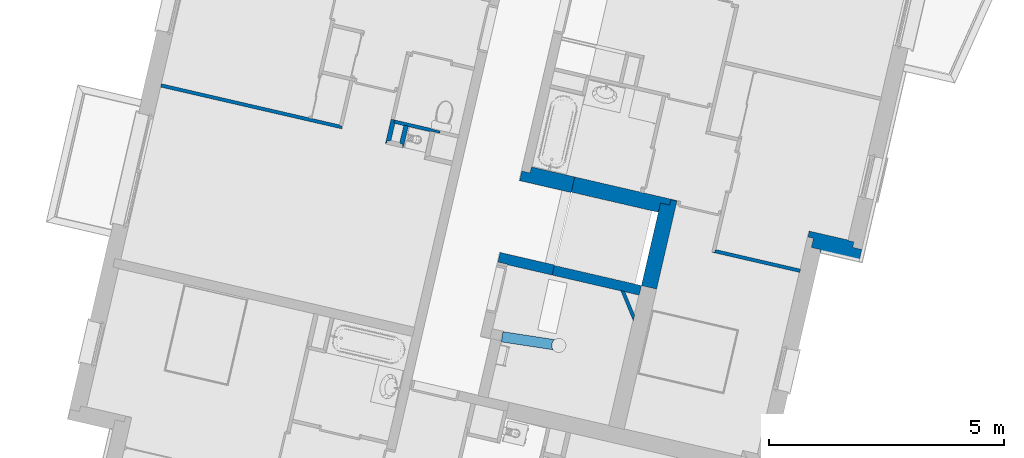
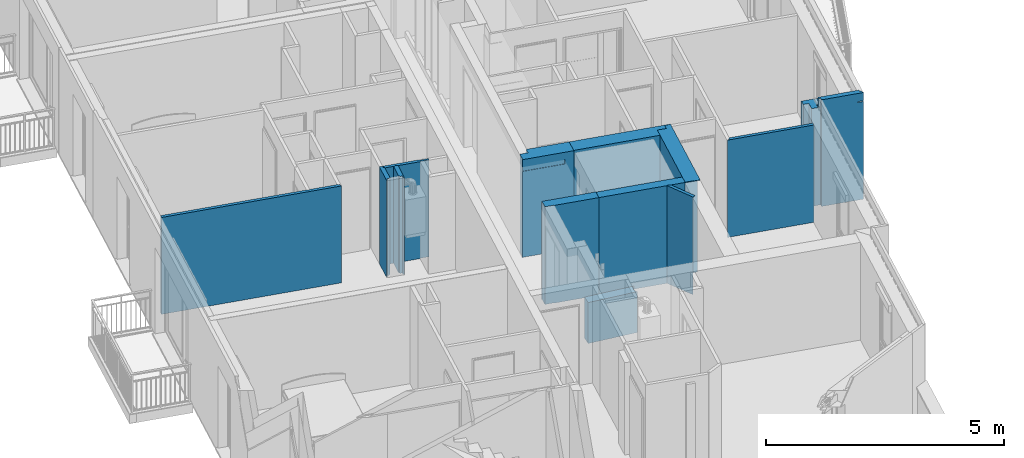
# One storey, part 26 of 62: 13 walls.
"""IFC2X3 building model written with IfcOpenShell, lengths in metres."""

from ifc_helpers import new_model, entity, si_unit, converted_unit, derived_unit, money_unit, direction, frame, origin_with_axes, place, context, subcontext, project, spatial, open_shell, faceted_brep, surface_model, material, material_list, type_object, element, save


model = new_model("IFC2X3")

# Units and contexts
model_context = context("Model", 3, precision=1e-05, world=origin_with_axes(), true_north=direction((0.0, 1.0)))
body_context = subcontext(model_context, "Body", "Model", "MODEL_VIEW")
ifc_project = project(units=[si_unit("LENGTHUNIT", "METRE"), si_unit("AREAUNIT", "SQUARE_METRE"), si_unit("VOLUMEUNIT", "CUBIC_METRE"), converted_unit("PLANEANGLEUNIT", "DEGREE", entity("IfcPlaneAngleMeasure", 0.0174532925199), si_unit("PLANEANGLEUNIT", "RADIAN"), dimensions=[0, 0, 0, 0, 0, 0, 0]), si_unit("SOLIDANGLEUNIT", "STERADIAN"), money_unit("EUR"), converted_unit("TIMEUNIT", "Year", entity("IfcTimeMeasure", 31556926.0), si_unit("TIMEUNIT", "SECOND"), dimensions=[0, 0, 1, 0, 0, 0, 0]), si_unit("MASSUNIT", "GRAM", prefix="KILO"), si_unit("THERMODYNAMICTEMPERATUREUNIT", "DEGREE_CELSIUS"), si_unit("LUMINOUSINTENSITYUNIT", "LUMEN"), si_unit("ENERGYUNIT", "JOULE", prefix="MEGA"), derived_unit("THERMALCONDUCTANCEUNIT", [(si_unit("POWERUNIT", "WATT"), 1), (si_unit("LENGTHUNIT", "METRE"), -1), (si_unit("THERMODYNAMICTEMPERATUREUNIT", "KELVIN"), -1)]), derived_unit("SPECIFICHEATCAPACITYUNIT", [(si_unit("ENERGYUNIT", "JOULE"), 1), (si_unit("MASSUNIT", "GRAM", prefix="KILO"), -1), (si_unit("THERMODYNAMICTEMPERATUREUNIT", "KELVIN"), -1)]), derived_unit("MASSDENSITYUNIT", [(si_unit("MASSUNIT", "GRAM", prefix="KILO"), 1), (si_unit("VOLUMEUNIT", "CUBIC_METRE"), -1)])], contexts=[model_context])

# Site, building, storey
site_placement = place(None, origin_with_axes())
site = spatial("IfcSite", under=ifc_project, at=site_placement, Name="Site", CompositionType="ELEMENT")
building_placement = place(site_placement, origin_with_axes())
building = spatial("IfcBuilding", under=site, at=building_placement, Name="Bâtiment", CompositionType="ELEMENT")
storey_placement = place(building_placement, frame((0.0, 0.0, 8.16), z_axis=(0.0, 0.0, 1.0), x_axis=(1.0, 0.0, 0.0)))
storey = spatial("IfcBuildingStorey", under=building, at=storey_placement, Name="R+3", CompositionType="ELEMENT", Elevation=8.16)

# Walls
ifc_material_1 = material(Name="Cloison - Carreaux de plâtre")
wall_type_1 = type_object("IfcWallType", Name="Cloison - Carreaux de plâtre 74", PredefinedType="USERDEFINED")
wall_1_placement = place(storey_placement, frame((-8.31029544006, -6.29006190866, 0.0), z_axis=(0.0, 0.0, 1.0), x_axis=(0.383112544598, -0.92370167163, 0.0)))
element("IfcWall", 1, at=wall_1_placement, inside=storey, type_object=wall_type_1, material=ifc_material_1, Name="Carreaux de plâtre 8cm", ObjectType="PARTITIONING", context=body_context, shape_type="Brep", body=[
    faceted_brep([(0.947949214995, 0.074, 2.51), (0.947949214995, 0.0, 2.51), (0.947949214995, 0.0, 2.5), (0.947949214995, 0.074, 2.5), (0.298560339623, 0.074, 2.51), (0.245733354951, 0.0, 2.51), (0.245733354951, 0.0, 0.0), (0.947949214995, 0.0, 0.0), (0.844290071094, 0.074, 2.5), (0.844290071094, 0.074, 0.0), (0.298560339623, 0.074, 0.0)], [[[0, 1, 2, 3]], [[0, 4, 5, 1]], [[5, 6, 7, 2, 1]], [[3, 2, 8]], [[0, 3, 8, 9, 10, 4]], [[6, 5, 4, 10]], [[6, 10, 9, 7]], [[2, 7, 9, 8]]]),
])
ifc_material_2 = material(Name="Finition int - Plaque de plâtre")
ifc_material_3 = material(Name="Isolation - Laine de roche")
ifc_material_list_1 = material_list([ifc_material_2, ifc_material_3, ifc_material_2])
wall_type_2 = type_object("IfcWallType", Name="3 - Cloison 72mm Placostil 74", PredefinedType="USERDEFINED")
wall_2_placement = place(storey_placement, frame((-12.2584688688, -3.14533732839, 0.0), z_axis=(0.0, 0.0, 1.0), x_axis=(-0.97438734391, 0.224876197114, 0.0)))
element("IfcWall", 2, at=wall_2_placement, inside=storey, type_object=wall_type_2, material=ifc_material_list_1, Name="Cloison Placostil 72/48", ObjectType="PARTITIONING", context=body_context, shape_type="Brep", body=[
    faceted_brep([(0.493942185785, -0.013, 2.49), (0.0, -0.013, 2.49), (0.0, -0.013, 0.0), (0.493942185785, -0.013, 0.0), (0.0, 0.0, 2.49), (0.49410403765, 0.0, 2.49), (0.0, 0.0, 0.0), (0.49410403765, 0.0, 0.0)], [[[0, 1, 2, 3]], [[4, 1, 0, 5]], [[1, 4, 6, 2]], [[3, 2, 6, 7]], [[5, 0, 3, 7]], [[4, 5, 7, 6]]]),
    faceted_brep([(0.775000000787, -0.013, 2.49), (0.567947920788, -0.013, 2.49), (0.567947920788, -0.013, 0.0), (0.775000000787, -0.013, 0.0), (0.568109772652, 0.0, 2.49), (0.775000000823, 0.0, 2.49), (0.568109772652, 0.0, 0.0), (0.775000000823, 0.0, 0.0)], [[[0, 1, 2, 3]], [[4, 1, 0, 5]], [[1, 4, 6, 2]], [[2, 6, 7, 3]], [[5, 0, 3, 7]], [[4, 5, 7, 6]]]),
    faceted_brep([(0.801000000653, -0.061, 2.49), (-0.200000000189, -0.061, 2.49), (-0.200000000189, -0.061, 0.0), (0.801000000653, -0.061, 0.0), (-0.200000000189, -0.013, 2.49), (0.801000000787, -0.013, 2.49), (-0.200000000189, -0.013, 0.0), (0.801000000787, -0.013, 0.0)], [[[0, 1, 2, 3]], [[4, 1, 0, 5]], [[1, 4, 6, 2]], [[3, 2, 6, 7]], [[5, 0, 3, 7]], [[4, 5, 7, 6]]]),
    faceted_brep([(0.775000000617, -0.074, 2.49), (-1.89340099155e-10, -0.074, 2.49), (-1.89340099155e-10, -0.074, 0.0), (0.775000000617, -0.074, 0.0), (-1.5607604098e-10, -0.061, 2.49), (0.775000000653, -0.061, 2.49), (-1.5607604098e-10, -0.061, 0.0), (0.775000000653, -0.061, 0.0)], [[[0, 1, 2, 3]], [[4, 1, 0, 5]], [[1, 4, 6, 2]], [[3, 2, 6, 7]], [[5, 0, 3, 7]], [[4, 5, 7, 6]]]),
])
wall_3_placement = place(storey_placement, frame((-14.1354559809, -3.08704775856, 0.0), z_axis=(0.0, 0.0, 1.0), x_axis=(-0.974387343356, 0.224876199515, 0.0)))
element("IfcWall", 3, at=wall_3_placement, inside=storey, type_object=wall_type_2, material=ifc_material_list_1, Name="Cloison Placostil 72/48", ObjectType="PARTITIONING", context=body_context, shape_type="Brep", body=[
    faceted_brep([(3.95828996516, -0.013, 2.49), (0.0, -0.013, 2.49), (0.0, -0.013, 0.0), (3.95828996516, -0.013, 0.0), (0.0, 0.0, 2.49), (3.95828996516, 0.0, 2.49), (0.0, 0.0, 0.0), (3.95828996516, 0.0, 0.0)], [[[0, 1, 2, 3]], [[4, 1, 0, 5]], [[1, 4, 6, 2]], [[6, 7, 3, 2]], [[5, 0, 3, 7]], [[4, 5, 7, 6]]]),
    faceted_brep([(3.95828996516, -0.061, 2.49), (0.0129999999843, -0.061, 2.49), (0.0129999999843, -0.061, 0.0), (3.95828996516, -0.061, 0.0), (0.0129999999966, -0.013, 2.49), (3.95828996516, -0.013, 2.49), (0.0129999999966, -0.013, 0.0), (3.95828996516, -0.013, 0.0)], [[[0, 1, 2, 3]], [[4, 1, 0, 5]], [[1, 4, 6, 2]], [[6, 7, 3, 2]], [[5, 0, 3, 7]], [[4, 5, 7, 6]]]),
    faceted_brep([(3.95828996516, -0.074, 2.49), (0.735000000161, -0.074, 2.49), (0.735000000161, -0.074, 0.0), (3.95828996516, -0.074, 0.0), (0.735000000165, -0.061, 2.49), (3.95828996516, -0.061, 2.49), (0.735000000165, -0.061, 0.0), (3.95828996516, -0.061, 0.0)], [[[0, 1, 2, 3]], [[4, 1, 0, 5]], [[1, 4, 6, 2]], [[6, 7, 3, 2]], [[5, 0, 3, 7]], [[4, 5, 7, 6]]]),
    faceted_brep([(0.687000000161, -0.074, 2.49), (0.0609999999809, -0.074, 2.49), (0.0609999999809, -0.074, 0.0), (0.687000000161, -0.074, 0.0), (0.0609999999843, -0.061, 2.49), (0.687000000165, -0.061, 2.49), (0.0609999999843, -0.061, 0.0), (0.687000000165, -0.061, 0.0)], [[[0, 1, 2, 3]], [[4, 1, 0, 5]], [[1, 4, 6, 2]], [[7, 3, 2, 6]], [[5, 0, 3, 7]], [[4, 5, 7, 6]]]),
])
wall_4_placement = place(storey_placement, frame((-6.26296169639, -5.63237108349, 0.0), z_axis=(0.0, 0.0, 1.0), x_axis=(0.974387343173, -0.224876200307, 0.0)))
element("IfcWall", 4, at=wall_4_placement, inside=storey, type_object=wall_type_2, material=ifc_material_list_1, Name="Cloison Placostil 72/48", ObjectType="PARTITIONING", context=body_context, shape_type="Brep", body=[
    faceted_brep([(0.0740000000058, -0.013, 2.5), (1.91836082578, -0.013, 2.5), (1.91836082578, 0.0, 2.5), (0.074, 0.0, 2.5), (0.0740000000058, -0.013, 0.0), (1.91836082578, -0.013, 0.0), (1.91836082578, 0.0, 0.0), (0.074, 0.0, 0.0)], [[[0, 1, 2, 3]], [[4, 5, 1, 0]], [[2, 1, 5, 6]], [[3, 2, 6, 7]], [[4, 0, 3, 7]], [[7, 6, 5, 4]]]),
    faceted_brep([(0.0610000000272, -0.061, 2.5), (1.91836082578, -0.061, 2.5), (1.91836082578, -0.013, 2.5), (0.0610000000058, -0.013, 2.5), (0.0610000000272, -0.061, 0.0), (1.91836082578, -0.061, 0.0), (1.91836082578, -0.013, 0.0), (0.0610000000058, -0.013, 0.0)], [[[0, 1, 2, 3]], [[4, 5, 1, 0]], [[2, 1, 5, 6]], [[3, 2, 6, 7]], [[4, 0, 3, 7]], [[7, 6, 5, 4]]]),
    faceted_brep([(0.0130000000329, -0.074, 2.5), (1.91836082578, -0.074, 2.5), (1.91836082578, -0.061, 2.5), (0.0130000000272, -0.061, 2.5), (0.0130000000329, -0.074, 0.0), (1.91836082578, -0.074, 0.0), (1.91836082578, -0.061, 0.0), (0.0130000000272, -0.061, 0.0)], [[[0, 1, 2, 3]], [[4, 5, 1, 0]], [[2, 1, 5, 6]], [[3, 2, 6, 7]], [[4, 0, 3, 7]], [[7, 6, 5, 4]]]),
])
ifc_material_4 = material(Name="Finition int - Enduit plâtre")
ifc_material_5 = material(Name="Béton")
ifc_material_list_2 = material_list([ifc_material_4, ifc_material_5, ifc_material_4])
wall_type_3 = type_object("IfcWallType", Name="2 - Murs Béton 20 + Enduit 2 Faces  220", PredefinedType="USERDEFINED")
wall_5_placement = place(storey_placement, frame((-9.62496216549, -5.98665355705, 0.0), z_axis=(0.0, 0.0, 1.0), x_axis=(-0.974387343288, 0.224876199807, 0.0)))
element("IfcWall", 5, at=wall_5_placement, inside=storey, type_object=wall_type_3, material=ifc_material_list_2, Name="M_Ext-009", ObjectType="SOLIDWALL", context=body_context, shape_type="SurfaceModel", body=[
    faceted_brep([(0.984999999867, 0.21, 0.0), (0.984999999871, 0.2, 0.0), (0.0, 0.2, 0.0), (0.0, 0.21, 0.0), (0.984999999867, 0.21, 2.51), (0.984999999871, 0.2, 2.51), (0.0, 0.2, 2.51), (0.0, 0.21, 2.51)], [[[0, 1, 2, 3]], [[1, 0, 4, 5]], [[1, 5, 6, 2]], [[7, 3, 2, 6]], [[4, 0, 3, 7]], [[5, 4, 7, 6]]]),
    faceted_brep([(1.18499999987, 0.2, 0.0), (1.18499999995, 0.0, 0.0), (0.0, 0.0, 0.0), (0.0, 0.2, 0.0), (1.18499999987, 0.2, 2.51), (1.18499999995, 0.0, 2.51), (0.0, 0.0, 2.51), (0.0, 0.2, 2.51)], [[[0, 1, 2, 3]], [[1, 0, 4, 5]], [[1, 5, 6, 2]], [[7, 3, 2, 6]], [[4, 0, 3, 7]], [[5, 4, 7, 6]]]),
    surface_model("IfcShellBasedSurfaceModel", [(1.19499999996, -0.01, 0.0), (1.19499999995, 0.0, 0.0), (1.19499999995, 0.0, 2.51), (1.19499999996, -0.01, 2.51), (1.19499999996, -0.01, 2.32), (1.19499999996, -0.01, 2.22), (1.19499999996, -0.01, 2.207), (0.0, -0.01, 0.0), (0.0, 0.0, 0.0), (0.0, 0.0, 2.51), (0.0, -0.01, 2.51), (0.19999999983, -0.01, 2.207), (0.19999999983, -0.01, 2.22), (0.19999999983, -0.01, 2.32), (0.19999999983, 6.21149354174e-10, 2.22), (0.19999999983, 6.21149354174e-10, 2.32), (0.19999999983, 6.21149354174e-10, 2.207)], [open_shell([[[0, 1, 2, 3, 4, 5, 6]], [[1, 0, 7, 8]], [[2, 1, 8, 9]], [[3, 2, 9, 10]], [[0, 6, 11, 12, 13, 4, 3, 10, 7]], [[14, 5, 4, 15]], [[16, 6, 5, 14]], [[9, 8, 7, 10]], [[14, 15, 13, 12]], [[12, 11, 16, 14]], [[6, 16, 11]], [[15, 4, 13]]])]),
])
wall_6_placement = place(storey_placement, frame((-10.7342752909, -7.5019243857, 0.0), z_axis=(0.0, 0.0, 1.0), x_axis=(0.988449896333, -0.151548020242, 0.0)))
element("IfcWall", 6, at=wall_6_placement, inside=storey, type_object=wall_type_3, material=ifc_material_list_2, Name="M_Ext-009", ObjectType="SOLIDWALL", context=body_context, shape_type="Brep", body=[
    faceted_brep([(1.10779944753, 0.1, 1.05), (1.11408930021, 0.107648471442, 1.05), (1.11713071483, 0.11, 1.05), (0.0, 0.11, 1.05), (0.0, 0.1, 1.05), (1.10779944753, 0.1, 0.0), (1.11408930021, 0.107648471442, 0.0), (1.11713071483, 0.11, 0.0), (0.0, 0.11, 0.0), (0.0, 0.1, 0.0)], [[[0, 1, 2, 3, 4]], [[1, 0, 5, 6]], [[7, 2, 1, 6]], [[2, 7, 8, 3]], [[4, 3, 8, 9]], [[5, 0, 4, 9]], [[6, 5, 9, 8, 7]]]),
    faceted_brep([(1.07772713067, 0.0516646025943, 1.05), (1.0927542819, 0.0817050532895, 1.05), (1.10779944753, 0.1, 1.05), (0.0, 0.1, 1.05), (0.0, -0.1, 1.05), (1.10745240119, -0.1, 1.05), (1.0903549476, -0.0778865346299, 1.05), (1.07623765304, -0.0474079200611, 1.05), (1.0692564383, -0.0145520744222, 1.05), (1.06976137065, 0.0190334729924, 1.05), (1.07772713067, 0.0516646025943, 0.0), (1.0927542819, 0.0817050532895, 0.0), (1.10779944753, 0.1, 0.0), (0.0, 0.1, 0.0), (0.0, -0.1, 0.0), (1.10745240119, -0.1, 0.0), (1.0903549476, -0.0778865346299, 0.0), (1.07623765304, -0.0474079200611, 0.0), (1.0692564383, -0.0145520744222, 0.0), (1.06976137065, 0.0190334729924, 0.0)], [[[0, 1, 2, 3, 4, 5, 6, 7, 8, 9]], [[1, 0, 10, 11]], [[12, 2, 1, 11]], [[2, 12, 13, 3]], [[4, 3, 13, 14]], [[15, 5, 4, 14]], [[6, 5, 15, 16]], [[7, 6, 16, 17]], [[8, 7, 17, 18]], [[9, 8, 18, 19]], [[0, 9, 19, 10]], [[16, 15, 14, 13, 12, 11, 10, 19, 18, 17]]]),
    faceted_brep([(1.11763756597, -0.11, 0.0), (1.11763756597, -0.11, 1.05), (0.0, -0.11, 1.05), (0.0, -0.11, 0.0), (1.11090042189, -0.104459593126, 1.05), (1.11090042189, -0.104459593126, 0.0), (1.10745240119, -0.1, 1.05), (0.0, -0.1, 1.05), (0.0, -0.1, 0.0), (1.10745240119, -0.1, 0.0)], [[[0, 1, 2, 3]], [[4, 1, 0, 5]], [[4, 6, 7, 2, 1]], [[2, 7, 8, 3]], [[5, 0, 3, 8, 9]], [[6, 4, 5, 9]], [[6, 9, 8, 7]]]),
])
ifc_material_list_3 = material_list([ifc_material_2, ifc_material_2, ifc_material_3, ifc_material_2, ifc_material_2])
wall_type_4 = type_object("IfcWallType", Name="3 - Cloison Gaine Technique 98mm 100", PredefinedType="USERDEFINED")
wall_7_placement = place(storey_placement, frame((-13.0944169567, -2.87646599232, 0.0), z_axis=(0.0, 0.0, 1.0), x_axis=(-0.224876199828, -0.974387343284, 0.0)))
element("IfcWall", 7, at=wall_7_placement, inside=storey, type_object=wall_type_4, material=ifc_material_list_3, Name="Cloison 98 isolée", ObjectType="PARTITIONING", context=body_context, shape_type="Brep", body=[
    faceted_brep([(0.0609999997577, 0.087, 2.49), (0.0609999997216, 0.1, 2.49), (0.0609999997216, 0.1, 0.0), (0.0609999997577, 0.087, 0.0), (0.441186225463, 0.1, 2.49), (0.441186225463, 0.087, 2.49), (0.441186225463, 0.1, 0.0), (0.441186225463, 0.087, 0.0)], [[[0, 1, 2, 3]], [[4, 1, 0, 5]], [[1, 4, 6, 2]], [[6, 7, 3, 2]], [[5, 0, 3, 7]], [[4, 5, 7, 6]]]),
    faceted_brep([(0.0, 0.087, 2.49), (0.0, 0.1, 2.49), (0.0, 0.1, 0.0), (0.0, 0.087, 0.0), (0.0129999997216, 0.1, 2.49), (0.0129999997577, 0.087, 2.49), (0.0129999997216, 0.1, 0.0), (0.0129999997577, 0.087, 0.0)], [[[0, 1, 2, 3]], [[4, 1, 0, 5]], [[1, 4, 6, 2]], [[6, 7, 3, 2]], [[5, 0, 3, 7]], [[4, 5, 7, 6]]]),
    faceted_brep([(0.0609999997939, 0.074, 2.49), (0.0609999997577, 0.087, 2.49), (0.0609999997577, 0.087, 0.0), (0.0609999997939, 0.074, 0.0), (0.454186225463, 0.087, 2.49), (0.454186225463, 0.074, 2.49), (0.454186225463, 0.087, 0.0), (0.454186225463, 0.074, 0.0)], [[[0, 1, 2, 3]], [[4, 1, 0, 5]], [[1, 4, 6, 2]], [[6, 7, 3, 2]], [[5, 0, 3, 7]], [[4, 5, 7, 6]]]),
    faceted_brep([(0.0, 0.074, 2.49), (0.0, 0.087, 2.49), (0.0, 0.087, 0.0), (0.0, 0.074, 0.0), (0.0129999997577, 0.087, 2.49), (0.0129999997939, 0.074, 2.49), (0.0129999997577, 0.087, 0.0), (0.0129999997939, 0.074, 0.0)], [[[0, 1, 2, 3]], [[4, 1, 0, 5]], [[1, 4, 6, 2]], [[6, 7, 3, 2]], [[5, 0, 3, 7]], [[4, 5, 7, 6]]]),
    faceted_brep([(0.0, 0.026, 2.49), (0.0, 0.074, 2.49), (0.0, 0.074, 0.0), (0.0, 0.026, 0.0), (0.467186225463, 0.074, 2.49), (0.467186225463, 0.026, 2.49), (0.467186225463, 0.074, 0.0), (0.467186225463, 0.026, 0.0)], [[[0, 1, 2, 3]], [[4, 1, 0, 5]], [[1, 4, 6, 2]], [[6, 7, 3, 2]], [[5, 0, 3, 7]], [[4, 5, 7, 6]]]),
    faceted_brep([(0.0, 0.013, 2.49), (0.0, 0.026, 2.49), (0.0, 0.026, 0.0), (0.0, 0.013, 0.0), (0.515186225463, 0.026, 2.49), (0.515186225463, 0.013, 2.49), (0.515186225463, 0.026, 0.0), (0.515186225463, 0.013, 0.0)], [[[0, 1, 2, 3]], [[4, 1, 0, 5]], [[1, 4, 6, 2]], [[6, 7, 3, 2]], [[5, 0, 3, 7]], [[4, 5, 7, 6]]]),
    faceted_brep([(0.0, 0.0, 2.49), (0.0, 0.013, 2.49), (0.0, 0.013, 0.0), (0.0, 0.0, 0.0), (0.528186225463, 0.013, 2.49), (0.528186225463, 0.0, 2.49), (0.528186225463, 0.013, 0.0), (0.528186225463, 0.0, 0.0)], [[[0, 1, 2, 3]], [[4, 1, 0, 5]], [[1, 4, 6, 2]], [[6, 7, 3, 2]], [[5, 0, 3, 7]], [[4, 5, 7, 6]]]),
])
wall_8_placement = place(storey_placement, frame((-12.837976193, -3.49106105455, 0.0), z_axis=(0.0, 0.0, 1.0), x_axis=(0.236989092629, 0.971512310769, 0.0)))
element("IfcWall", 8, at=wall_8_placement, inside=storey, type_object=wall_type_4, material=ifc_material_list_3, Name="Cloison 98 isolée", ObjectType="PARTITIONING", context=body_context, shape_type="Brep", body=[
    faceted_brep([(0.465977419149, 0.1, 2.49), (0.466139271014, 0.087, 2.49), (0.466139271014, 0.087, 0.0), (0.465977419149, 0.1, 0.0), (0.0989245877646, 0.087, 2.49), (0.0987627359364, 0.1, 2.49), (0.0989245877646, 0.087, 0.0), (0.0987627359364, 0.1, 0.0)], [[[0, 1, 2, 3]], [[4, 1, 0, 5]], [[1, 4, 6, 2]], [[3, 2, 6, 7]], [[5, 0, 3, 7]], [[4, 5, 7, 6]]]),
    faceted_brep([(0.479140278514, 0.087, 2.49), (0.479302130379, 0.074, 2.49), (0.479302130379, 0.074, 0.0), (0.479140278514, 0.087, 0.0), (0.0860854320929, 0.074, 2.49), (0.0859235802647, 0.087, 2.49), (0.0860854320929, 0.074, 0.0), (0.0859235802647, 0.087, 0.0)], [[[0, 1, 2, 3]], [[4, 1, 0, 5]], [[1, 4, 6, 2]], [[3, 2, 6, 7]], [[5, 0, 3, 7]], [[4, 5, 7, 6]]]),
    faceted_brep([(0.479302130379, 0.074, 2.49), (0.479899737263, 0.026, 2.49), (0.479899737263, 0.026, 0.0), (0.479302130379, 0.074, 0.0), (0.0736820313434, 0.026, 2.49), (0.0730844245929, 0.074, 2.49), (0.0736820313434, 0.026, 0.0), (0.0730844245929, 0.074, 0.0)], [[[0, 1, 2, 3]], [[4, 1, 0, 5]], [[1, 4, 6, 2]], [[3, 2, 6, 7]], [[5, 0, 3, 7]], [[4, 5, 7, 6]]]),
    faceted_brep([(0.479899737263, 0.026, 2.49), (0.480061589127, 0.013, 2.49), (0.480061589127, 0.013, 0.0), (0.479899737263, 0.026, 0.0), (0.0258401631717, 0.013, 2.49), (0.0256783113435, 0.026, 2.49), (0.0258401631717, 0.013, 0.0), (0.0256783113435, 0.026, 0.0)], [[[0, 1, 2, 3]], [[4, 1, 0, 5]], [[1, 4, 6, 2]], [[3, 2, 6, 7]], [[5, 0, 3, 7]], [[4, 5, 7, 6]]]),
    faceted_brep([(0.467060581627, 0.013, 2.49), (0.467222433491, 0.0, 2.49), (0.467222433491, 0.0, 0.0), (0.467060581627, 0.013, 0.0), (0.0130010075, 0.0, 2.49), (0.0128391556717, 0.013, 2.49), (0.0130010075, 0.0, 0.0), (0.0128391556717, 0.013, 0.0)], [[[0, 1, 2, 3]], [[4, 1, 0, 5]], [[1, 4, 6, 2]], [[3, 2, 6, 7]], [[5, 0, 3, 7]], [[4, 5, 7, 6]]]),
])
ifc_material_list_4 = material_list([ifc_material_4, ifc_material_5])
wall_type_5 = type_object("IfcWallType", Name="2 - Murs Béton 20 + Enduit 1 Face  210", PredefinedType="USERDEFINED")
wall_9_placement = place(storey_placement, frame((-7.77362621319, -6.41391833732, 0.0), z_axis=(0.0, 0.0, 1.0), x_axis=(-0.974387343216, 0.224876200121, 0.0)))
element("IfcWall", 9, at=wall_9_placement, inside=storey, type_object=wall_type_5, material=ifc_material_list_4, Name="M_Ext-009", ObjectType="SOLIDWALL", context=body_context, shape_type="Brep", body=[
    faceted_brep([(0.309940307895, 0.21, 2.51), (-0.200000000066, 0.21, 2.50999999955), (-0.200000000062, 0.2, 2.50999999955), (0.317079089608, 0.2, 2.51), (0.00999999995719, 0.21, 2.5), (-0.200000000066, 0.21, 2.5), (0.309940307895, 0.21, 0.0), (0.00999999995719, 0.21, 0.0), (-0.200000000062, 0.2, 2.5), (0.00999999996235, 0.2, 2.5), (0.00999999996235, 0.2, 0.0), (0.317079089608, 0.2, 0.0)], [[[0, 1, 2, 3]], [[4, 5, 1, 0, 6, 7]], [[5, 8, 2, 1]], [[3, 2, 8, 9, 10, 11]], [[6, 0, 3, 11]], [[9, 8, 5, 4]], [[11, 10, 7, 6]], [[7, 10, 9, 4]]]),
    faceted_brep([(1.90000000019, 0.21, 2.51), (0.400861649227, 0.21, 2.51), (0.408000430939, 0.2, 2.51), (1.90000000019, 0.2, 2.51), (1.90000000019, 0.21, 0.0), (0.400861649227, 0.21, 0.0), (0.408000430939, 0.2, 0.0), (1.90000000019, 0.2, 0.0)], [[[0, 1, 2, 3]], [[4, 5, 1, 0]], [[5, 6, 2, 1]], [[3, 2, 6, 7]], [[0, 3, 7, 4]], [[7, 6, 5, 4]]]),
    faceted_brep([(1.90000000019, 0.2, 2.51), (0.0, 0.2, 2.50999999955), (0.0, 0.0, 2.50999999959), (1.90000000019, 0.0, 2.51), (0.0, 0.2, 0.0), (1.90000000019, 0.2, 0.0), (0.0, 4.93001195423e-10, 0.0), (0.0, 1.43973988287e-09, 2.5), (1.90000000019, 0.0, 0.0)], [[[0, 1, 2, 3]], [[4, 1, 0, 5]], [[6, 7, 2, 1, 4]], [[3, 2, 7, 6, 8]], [[0, 3, 8, 5]], [[8, 6, 4, 5]]]),
])
ifc_material_6 = material(Name="Isolation - Polystyrène extrudé")
ifc_material_list_5 = material_list([ifc_material_4, ifc_material_5, ifc_material_6, ifc_material_2])
wall_type_6 = type_object("IfcWallType", Name="2 - Murs Béton 20 + Isolant 120 + Enduit 1 Faces 340", PredefinedType="USERDEFINED")
wall_10_placement = place(storey_placement, frame((-9.26516024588, -4.42763380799, 0.0), z_axis=(0.0, 0.0, 1.0), x_axis=(-0.974387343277, 0.224876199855, 0.0)))
element("IfcWall", 10, at=wall_10_placement, inside=storey, type_object=wall_type_6, material=ifc_material_list_5, Name="M_Ext-008", ObjectType="SOLIDWALL", context=body_context, shape_type="Brep", body=[
    faceted_brep([(0.199999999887, 6.44038600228e-10, 2.32), (1.13460948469, 0.0, 2.32), (1.13460948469, 0.0, 2.51), (0.0, 0.0, 2.51), (0.0, 0.0, 0.0), (1.13460948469, 0.0, 0.0), (1.13460948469, 0.0, 2.207), (0.199999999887, 6.44038600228e-10, 2.207), (0.199999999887, 6.44038600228e-10, 2.22), (0.199999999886, 0.01, 2.32), (1.13460948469, 0.01, 2.32), (1.13460948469, 0.01, 2.51), (0.0, 0.01, 2.51), (0.0, 0.01, 0.0), (1.13460948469, 0.01, 0.0), (1.13460948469, 0.01, 2.207), (0.199999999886, 0.01, 2.207), (0.199999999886, 0.01, 2.22)], [[[0, 1, 2, 3, 4, 5, 6, 7, 8]], [[1, 0, 9, 10]], [[1, 10, 11, 2]], [[2, 11, 12, 3]], [[4, 3, 12, 13]], [[14, 5, 4, 13]], [[15, 6, 5, 14]], [[7, 6, 15, 16]], [[17, 8, 7, 16]], [[0, 8, 17, 9]], [[9, 17, 16, 15, 14, 13, 12, 11, 10]]]),
    faceted_brep([(1.12460948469, -0.2, 2.51), (1.12460948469, 0.0, 2.51), (0.0, 0.0, 2.51), (0.0, -0.2, 2.51), (1.12460948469, -0.2, 0.0), (1.12460948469, 0.0, 0.0), (0.0, 0.0, 0.0), (0.0, -0.2, 0.0)], [[[0, 1, 2, 3]], [[1, 0, 4, 5]], [[1, 5, 6, 2]], [[7, 3, 2, 6]], [[4, 0, 3, 7]], [[5, 4, 7, 6]]]),
    faceted_brep([(0.944609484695, -0.32, 2.51), (0.944609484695, -0.2, 2.51), (0.0, -0.2, 2.51), (0.0, -0.32, 2.51), (0.944609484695, -0.32, 0.0), (0.944609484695, -0.2, 0.0), (0.0, -0.2, 0.0), (0.0, -0.32, 0.0)], [[[0, 1, 2, 3]], [[1, 0, 4, 5]], [[1, 5, 6, 2]], [[7, 3, 2, 6]], [[4, 0, 3, 7]], [[5, 4, 7, 6]]]),
    faceted_brep([(0.944609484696, -0.33, 2.51), (0.944609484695, -0.32, 2.51), (0.0, -0.32, 2.51), (0.0, -0.33, 2.51), (0.944609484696, -0.33, 0.0), (0.944609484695, -0.32, 0.0), (0.0, -0.32, 0.0), (0.0, -0.33, 0.0)], [[[0, 1, 2, 3]], [[1, 0, 4, 5]], [[1, 5, 6, 2]], [[7, 3, 2, 6]], [[4, 0, 3, 7]], [[5, 4, 7, 6]]]),
])
ifc_material_list_6 = material_list([ifc_material_2, ifc_material_6, ifc_material_5])
wall_type_7 = type_object("IfcWallType", Name="2 - Murs Béton 20 + Isolant 120 330", PredefinedType="USERDEFINED")
wall_11_placement = place(storey_placement, frame((-7.41382429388, -4.85489858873, 0.0), z_axis=(0.0, 0.0, 1.0), x_axis=(-0.224876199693, -0.974387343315, 0.0)))
element("IfcWall", 11, at=wall_11_placement, inside=storey, type_object=wall_type_7, material=ifc_material_list_6, Name="M_Ext-008", ObjectType="SOLIDWALL", context=body_context, shape_type="Brep", body=[
    faceted_brep([(-0.330000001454, 0.32, 2.50999999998), (1.8099999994, 0.32, 2.50999999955), (1.8099999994, 0.33, 2.50999999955), (-0.330000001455, 0.33, 2.50999999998), (1.6000000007, 0.32, 2.5), (1.8099999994, 0.32, 2.5), (-0.330000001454, 0.32, 0.0), (1.6000000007, 0.32, 0.0), (1.8099999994, 0.330000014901, 2.5), (1.6000000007, 0.330000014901, 2.5), (1.6000000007, 0.330000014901, 0.0), (-0.330000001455, 0.330000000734, 0.0)], [[[0, 1, 2, 3]], [[4, 5, 1, 0, 6, 7]], [[5, 8, 2, 1]], [[3, 2, 8, 9, 10, 11]], [[0, 3, 11, 6]], [[9, 8, 5, 4]], [[11, 10, 7, 6]], [[7, 10, 9, 4]]]),
    faceted_brep([(-0.320000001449, 0.2, 2.50999999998), (1.80999999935, 0.2, 2.50999999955), (1.8099999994, 0.32, 2.50999999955), (-0.320000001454, 0.32, 2.50999999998), (1.6000000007, 0.2, 2.5), (1.80999999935, 0.2, 2.5), (-0.320000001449, 0.2, 0.0), (1.6000000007, 0.2, 0.0), (1.8099999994, 0.32, 2.5), (1.6000000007, 0.32, 2.5), (1.6000000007, 0.32, 0.0), (-0.320000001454, 0.32, 0.0)], [[[0, 1, 2, 3]], [[4, 5, 1, 0, 6, 7]], [[5, 8, 2, 1]], [[3, 2, 8, 9, 10, 11]], [[0, 3, 11, 6]], [[9, 8, 5, 4]], [[11, 10, 7, 6]], [[7, 10, 9, 4]]]),
    faceted_brep([(-0.20000000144, 0.0, 2.50999999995), (1.79999999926, 0.0, 2.51), (1.79999999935, 0.2, 2.51), (-0.200000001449, 0.2, 2.50999999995), (1.6000000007, 0.0, 2.5), (1.79999999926, 0.0, 2.5), (-0.20000000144, 0.0, 0.0), (1.6000000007, 0.0, 0.0), (1.79999999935, 0.2, 2.5), (1.6000000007, 0.2, 2.5), (1.6000000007, 0.2, 0.0), (-0.200000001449, 0.2, 0.0)], [[[0, 1, 2, 3]], [[4, 5, 1, 0, 6, 7]], [[5, 8, 2, 1]], [[3, 2, 8, 9, 10, 11]], [[6, 0, 3, 11]], [[9, 8, 5, 4]], [[6, 11, 10, 7]], [[4, 7, 10, 9]]]),
])
ifc_material_list_7 = material_list([ifc_material_5, ifc_material_6, ifc_material_2])
wall_12_placement = place(storey_placement, frame((-7.41382429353, -4.85489858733, 0.0), z_axis=(0.0, 0.0, 1.0), x_axis=(-0.974387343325, 0.224876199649, 0.0)))
element("IfcWall", 12, at=wall_12_placement, inside=storey, type_object=wall_type_7, material=ifc_material_list_7, Name="M_Ext-008", ObjectType="SOLIDWALL", context=body_context, shape_type="Brep", body=[
    faceted_brep([(0.0, -0.2, 2.51), (1.90000000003, -0.2, 2.51), (1.90000000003, 0.0, 2.51), (0.0, 0.0, 2.51), (0.0, -0.2, 0.0), (1.90000000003, -0.2, 0.0), (1.90000000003, 0.0, 0.0), (0.0, 0.0, 0.0)], [[[0, 1, 2, 3]], [[4, 5, 1, 0]], [[2, 1, 5, 6]], [[3, 2, 6, 7]], [[4, 0, 3, 7]], [[7, 6, 5, 4]]]),
    faceted_brep([(-0.199999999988, -0.32, 2.51), (1.90000000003, -0.32, 2.51), (1.90000000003, -0.2, 2.51), (-0.199999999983, -0.2, 2.51), (-0.199999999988, -0.32, 0.0), (1.90000000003, -0.32, 0.0), (1.90000000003, -0.2, 0.0), (-0.199999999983, -0.2, 0.0)], [[[0, 1, 2, 3]], [[4, 5, 1, 0]], [[2, 1, 5, 6]], [[3, 2, 6, 7]], [[4, 0, 3, 7]], [[7, 6, 5, 4]]]),
    faceted_brep([(-0.319999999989, -0.33, 2.51), (1.90000000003, -0.33, 2.51), (1.90000000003, -0.32, 2.51), (-0.319999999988, -0.32, 2.51), (-0.319999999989, -0.33, 0.0), (1.90000000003, -0.33, 0.0), (1.90000000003, -0.32, 0.0), (-0.319999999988, -0.32, 0.0)], [[[0, 1, 2, 3]], [[4, 5, 1, 0]], [[2, 1, 5, 6]], [[3, 2, 6, 7]], [[4, 0, 3, 7]], [[7, 6, 5, 4]]]),
])
ifc_material_7 = material(Name="Finition ext - Bardage bois")
ifc_material_8 = material(Name="Bois - Lattage")
ifc_material_9 = material(Name="Béton cellulaire")
ifc_material_10 = material(Name="Mortier")
ifc_material_11 = material(Name="Bloc ELITHERM")
ifc_material_list_8 = material_list([ifc_material_7, ifc_material_8, ifc_material_9, ifc_material_10, ifc_material_11, ifc_material_6, ifc_material_2])
wall_type_8 = type_object("IfcWallType", Name="Mur ALKERN + planelle 21 BARDAGE courant 395 x 2740", PredefinedType="USERDEFINED")
wall_13_placement = place(storey_placement, frame((-3.11339798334, -5.87817083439, 0.0), z_axis=(0.0, 0.0, 1.0), x_axis=(-0.974387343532, 0.224876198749, 0.0)))
element("IfcWall", 13, at=wall_13_placement, inside=storey, type_object=wall_type_8, material=ifc_material_list_8, Name="Mue bloc ALKERN isolé", ObjectType="SOLIDWALL", context=body_context, shape_type="Brep", body=[
    faceted_brep([(0.885808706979, 0.01, 2.74), (-0.034999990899, 0.01, 2.74), (-0.0349999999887, 0.01, 2.52999999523), (0.0780000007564, 0.01, 2.52999999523), (0.0780000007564, 0.01, 2.5200000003), (0.0980000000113, 0.01, 2.52), (0.0980000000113, 0.01, 2.51), (-0.0349999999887, 0.01, 2.50999999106), (-0.034999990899, 0.01, 0.0), (0.885808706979, 0.01, 0.0), (0.885808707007, 0.035, 2.74), (-0.0349999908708, 0.035, 2.74), (-0.0349999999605, 0.035, 2.52999999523), (0.0780000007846, 0.035, 2.52999999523), (0.0780000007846, 0.035, 2.5200000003), (0.0980000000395, 0.035, 2.52), (0.0980000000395, 0.035, 2.51), (-0.0349999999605, 0.035, 2.50999999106), (-0.0349999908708, 0.035, 0.0), (0.885808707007, 0.035, 0.0)], [[[0, 1, 2, 3, 4, 5, 6, 7, 8, 9]], [[1, 0, 10, 11]], [[11, 12, 2, 1]], [[12, 13, 3, 2]], [[14, 4, 3, 13]], [[5, 4, 14, 15]], [[16, 6, 5, 15]], [[7, 6, 16, 17]], [[8, 7, 17, 18]], [[18, 19, 9, 8]], [[19, 10, 0, 9]], [[11, 10, 19, 18, 17, 16, 15, 14, 13, 12]]]),
    faceted_brep([(0.885808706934, -0.030000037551, 2.74), (-0.0100000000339, -0.030000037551, 2.74), (-0.0100000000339, -0.030000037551, 2.53999999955), (-0.0350000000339, -0.030000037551, 2.53999999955), (-0.0350000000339, -0.030000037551, 2.52999999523), (0.0780000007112, -0.030000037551, 2.52999999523), (0.0780000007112, -0.030000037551, 2.5200000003), (0.0979999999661, -0.030000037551, 2.52), (0.0979999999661, -0.030000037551, 2.51), (-0.00999998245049, -0.030000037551, 2.50999999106), (-0.0100000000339, -0.030000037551, 0.0), (0.885808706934, -0.030000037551, 0.0), (0.885808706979, 0.00999998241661, 2.74), (-0.0099999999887, 0.00999998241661, 2.74), (-0.0099999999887, 0.00999998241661, 2.53999999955), (-0.0349999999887, 0.00999998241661, 2.53999999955), (-0.0349999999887, 0.00999998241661, 2.52999999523), (0.0780000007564, 0.00999998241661, 2.52999999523), (0.0780000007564, 0.00999998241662, 2.5200000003), (0.0980000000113, 0.00999998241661, 2.52), (0.0980000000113, 0.00999998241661, 2.51), (-0.00999998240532, 0.00999998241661, 2.50999999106), (-0.00999999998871, 0.00999998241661, 0.0), (0.885808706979, 0.00999998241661, 0.0)], [[[0, 1, 2, 3, 4, 5, 6, 7, 8, 9, 10, 11]], [[1, 0, 12, 13]], [[14, 2, 1, 13]], [[14, 15, 3, 2]], [[4, 3, 15, 16]], [[16, 17, 5, 4]], [[18, 6, 5, 17]], [[7, 6, 18, 19]], [[20, 8, 7, 19]], [[9, 8, 20, 21]], [[10, 9, 21, 22]], [[22, 23, 11, 10]], [[23, 12, 0, 11]], [[13, 12, 23, 22, 21, 20, 19, 18, 17, 16, 15, 14]]]),
    faceted_brep([(0.933808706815, -0.0779999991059, 2.53999999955), (0.933808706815, -0.0779999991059, 2.74), (0.0300000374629, -0.0779999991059, 2.74), (0.0300000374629, -0.0779999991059, 2.53999999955), (0.933808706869, -0.03, 2.74), (0.933808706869, -0.03, 2.53999999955), (0.0300000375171, -0.03, 2.74), (0.0300000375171, -0.03, 2.53999999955)], [[[0, 1, 2, 3]], [[4, 1, 0, 5]], [[1, 4, 6, 2]], [[3, 2, 6, 7]], [[5, 0, 3, 7]], [[4, 5, 7, 6]]]),
    faceted_brep([(0.953808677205, -0.098, 2.53), (0.953808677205, -0.098, 2.54), (-0.034999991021, -0.098, 2.54), (-0.034999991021, -0.098, 2.53), (0.953808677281, -0.03, 2.54), (0.953808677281, -0.03, 2.53), (-0.0349999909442, -0.03, 2.54), (-0.0349999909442, -0.03, 2.53)], [[[0, 1, 2, 3]], [[4, 1, 0, 5]], [[1, 4, 6, 2]], [[3, 2, 6, 7]], [[5, 0, 3, 7]], [[4, 5, 7, 6]]]),
    faceted_brep([(0.88580870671, -0.229999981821, 2.5200000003), (0.88580870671, -0.229999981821, 2.52999999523), (0.0780000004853, -0.229999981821, 2.52999999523), (0.0780000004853, -0.229999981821, 2.5200000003), (0.0979999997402, -0.229999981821, 2.52), (0.0979999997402, -0.229999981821, 2.51), (0.0299999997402, -0.229999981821, 2.51), (0.0300000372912, -0.229999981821, 0.0), (1.0858087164, -0.229999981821, 0.0), (1.0858087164, -0.229999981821, 2.51), (0.95380870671, -0.229999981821, 2.51), (0.88580870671, -0.229999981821, 2.51), (0.885808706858, -0.0980000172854, 2.52999999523), (0.885808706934, -0.03, 2.5200000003), (0.885808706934, -0.03, 2.52999999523), (0.0780000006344, -0.0980000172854, 2.52999999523), (0.0780000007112, -0.03, 2.52999999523), (0.0780000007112, -0.03, 2.5200000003), (0.0979999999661, -0.03, 2.52), (0.0979999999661, -0.03, 2.51), (0.0299999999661, -0.03, 2.51), (0.0300000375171, -0.03, 0.0), (1.08580871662, -0.03, 0.0), (1.08580871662, -0.03, 2.51), (0.953808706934, -0.03, 2.51), (0.885808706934, -0.03, 2.51)], [[[0, 1, 2, 3, 4, 5, 6, 7, 8, 9, 10, 11]], [[12, 1, 0, 13, 14]], [[1, 12, 15, 2]], [[3, 2, 15, 16, 17]], [[3, 17, 18, 4]], [[5, 4, 18, 19]], [[20, 6, 5, 19]], [[6, 20, 21, 7]], [[22, 8, 7, 21]], [[23, 9, 8, 22]], [[24, 10, 9, 23]], [[11, 10, 24, 25]], [[13, 0, 11, 25]], [[14, 13, 25, 24, 23, 22, 21, 20, 19, 18, 17, 16]], [[12, 14, 16, 15]]]),
    faceted_brep([(0.885808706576, -0.350000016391, 2.50999999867), (0.229999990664, -0.350000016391, 2.50999999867), (0.229999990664, -0.350000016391, 0.0), (1.20580872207, -0.350000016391, 0.0), (1.20580872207, -0.350000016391, 2.51), (0.953808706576, -0.350000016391, 2.51), (0.2299999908, -0.22999998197, 2.51), (0.88580870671, -0.22999998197, 2.51), (0.2299999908, -0.22999998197, 0.0), (1.20580872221, -0.22999998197, 0.0), (1.20580872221, -0.22999998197, 2.51), (0.95380870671, -0.22999998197, 2.51)], [[[0, 1, 2, 3, 4, 5]], [[6, 1, 0, 7]], [[1, 6, 8, 2]], [[8, 9, 3, 2]], [[9, 10, 4, 3]], [[10, 11, 5, 4]], [[7, 0, 5, 11]], [[6, 7, 11, 10, 9, 8]]]),
    faceted_brep([(0.885808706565, -0.360000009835, 2.50999999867), (0.350000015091, -0.360000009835, 2.50999999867), (0.350000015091, -0.360000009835, 0.0), (1.21580868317, -0.360000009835, 0.0), (1.21580868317, -0.360000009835, 2.51000000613), (0.953808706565, -0.360000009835, 2.51), (0.350000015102, -0.350000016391, 2.50999999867), (0.885808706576, -0.350000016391, 2.50999999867), (0.350000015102, -0.350000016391, 0.0), (1.21580868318, -0.350000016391, 0.0), (1.21580868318, -0.350000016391, 2.51000000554), (0.953808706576, -0.350000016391, 2.51)], [[[0, 1, 2, 3, 4, 5]], [[6, 1, 0, 7]], [[1, 6, 8, 2]], [[3, 2, 8, 9]], [[9, 10, 4, 3]], [[10, 11, 5, 4]], [[7, 0, 5, 11]], [[6, 7, 11, 10, 9, 8]]]),
])

save(model, "model.ifc")
